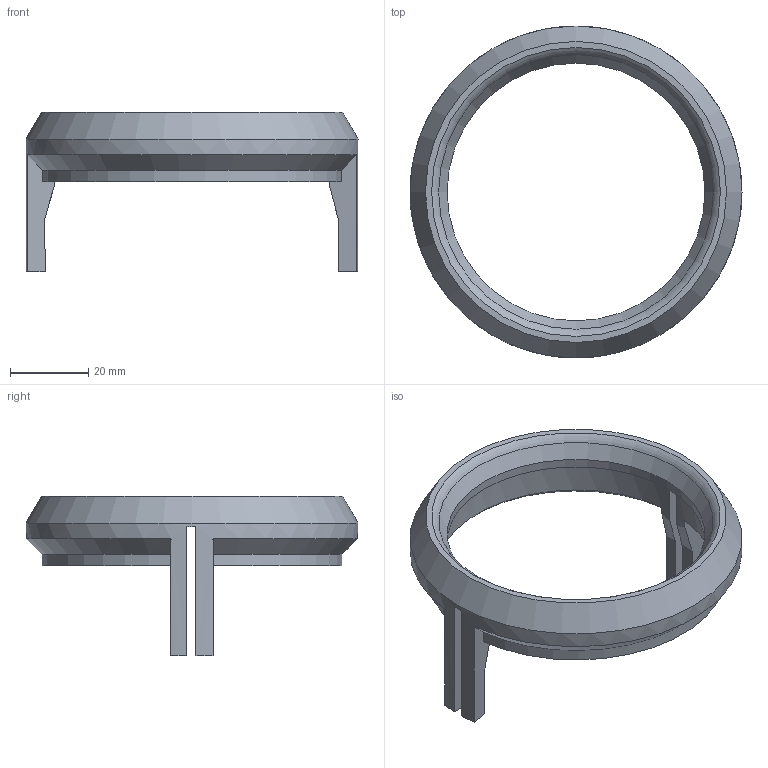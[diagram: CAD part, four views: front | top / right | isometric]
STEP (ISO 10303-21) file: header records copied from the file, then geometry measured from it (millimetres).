
FILE_DESCRIPTION(/* description */ (''),/* implementation_level */ '2;1');
FILE_NAME(/* name */ 'F:/F-Shared-Ryzen7 - PROD/F-OWL-PLANES/F16/STLs/OWLplane OWL F-16 Falcon v1.0/OWL F-16 Falcon 64mm - SUPPORT ver 0.9/F-16 Falcon 64mm EDF BRACKETS/STEP/EDF-64 PowerFun - Bracket v1.step',/* time_stamp */ '2022-10-07T18:54:42+07:00',/* author */ (''),/* organization */ (''),/* preprocessor_version */ 'ST-DEVELOPER v19',/* originating_system */ 'Autodesk Translation Framework v11.7.0.108',/* authorisation */ '');
FILE_SCHEMA (('AUTOMOTIVE_DESIGN { 1 0 10303 214 3 1 1 }'));
Length unit declared in the file: millimetre
Products named in the file (1): EDF-64 PowerFun - Bracket
Bounding box: 85 x 85 x 40.88 mm (x, y, z)
Volume: 26000.3 mm3; surface area: 12923.3 mm2
Topology: 1 solids, 1 shells, 37 faces, 105 edges, 70 vertices
Faces by surface type: plane 24, cone 6, cylinder 6, torus 1
Full cylindrical faces by diameter (mm): 66 x1, 85 x1
Entity records: 1255 total; most frequent: CARTESIAN_POINT 229, ORIENTED_EDGE 210, DIRECTION 206, EDGE_CURVE 105, AXIS2_PLACEMENT_3D 71, VERTEX_POINT 70, LINE 64, VECTOR 64
